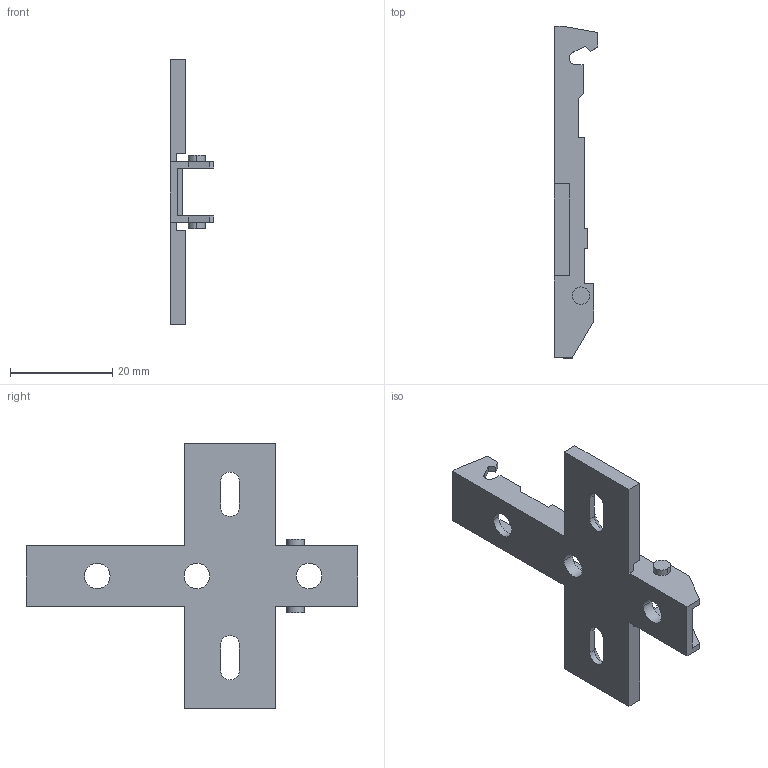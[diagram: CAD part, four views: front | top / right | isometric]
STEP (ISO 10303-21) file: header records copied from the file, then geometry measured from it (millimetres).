
FILE_DESCRIPTION (( 'STEP AP214' ), '1' );
FILE_NAME ('Eco Kreuzmontageplatte LR37_32_Spax_H-02.step', '2010-11-18T10:05:44', ( 'grass' ), ( '' ), 'SwSTEP 2.0', 'SolidWorks 2010', '' );
FILE_SCHEMA (( 'AUTOMOTIVE_DESIGN' ));
Length unit declared in the file: millimetre
Products named in the file (1): Eco Kreuzmontageplatte LR37_32_Spax_H-02
Bounding box: 8.5 x 65 x 52 mm (x, y, z)
Volume: 3793.1 mm3; surface area: 4721.9 mm2
Topology: 1 solids, 1 shells, 93 faces, 257 edges, 168 vertices
Faces by surface type: plane 69, cylinder 18, cone 6
Entity records: 2987 total; most frequent: CARTESIAN_POINT 519, ORIENTED_EDGE 514, DIRECTION 487, EDGE_CURVE 257, VECTOR 215, LINE 215, VERTEX_POINT 168, AXIS2_PLACEMENT_3D 136
